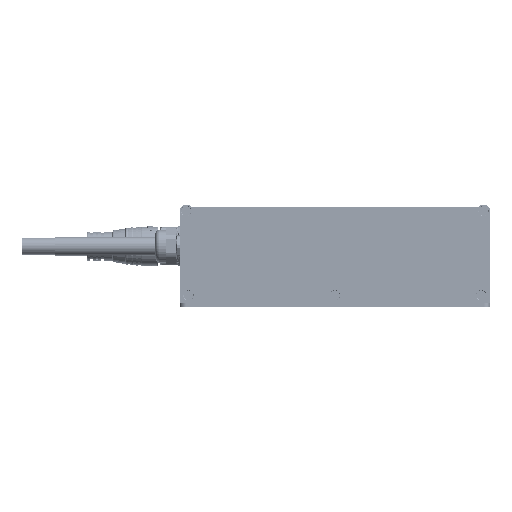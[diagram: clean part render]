
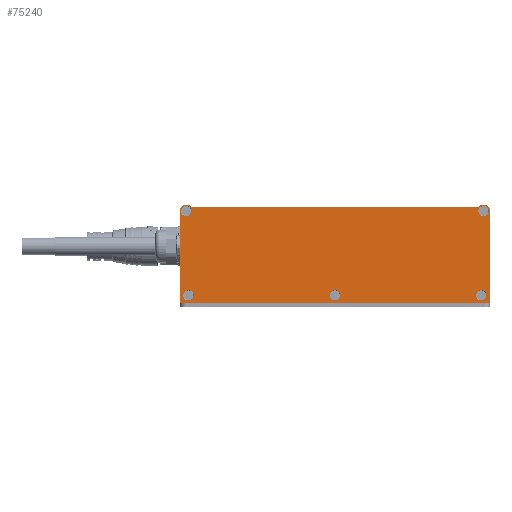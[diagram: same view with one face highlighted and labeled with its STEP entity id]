
A CAD part, top view. The second image highlights one B-rep face of the part: STEP entity #75240.
In plain terms, the highlighted planar face has unit normal (0, 0, 1).
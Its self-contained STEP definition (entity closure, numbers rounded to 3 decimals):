
#74513=CARTESIAN_POINT('',(-115.,34.5,3.));
#74514=DIRECTION('',(0.,0.,-1.));
#74515=DIRECTION('',(1.,0.,0.));
#74516=AXIS2_PLACEMENT_3D('',#74513,#74514,#74515);
#74518=CARTESIAN_POINT('',(-115.,34.5,3.));
#74519=DIRECTION('',(0.,0.,-1.));
#74520=DIRECTION('',(-1.,0.,0.));
#74521=AXIS2_PLACEMENT_3D('',#74518,#74519,#74520);
#74523=CARTESIAN_POINT('',(-113.232,-30.732,3.));
#74524=DIRECTION('',(0.,0.,-1.));
#74525=DIRECTION('',(1.,0.,0.));
#74526=AXIS2_PLACEMENT_3D('',#74523,#74524,#74525);
#74528=CARTESIAN_POINT('',(-113.232,-30.732,3.));
#74529=DIRECTION('',(0.,0.,-1.));
#74530=DIRECTION('',(-1.,0.,0.));
#74531=AXIS2_PLACEMENT_3D('',#74528,#74529,#74530);
#74533=CARTESIAN_POINT('',(113.232,-30.732,3.));
#74534=DIRECTION('',(0.,0.,-1.));
#74535=DIRECTION('',(1.,0.,0.));
#74536=AXIS2_PLACEMENT_3D('',#74533,#74534,#74535);
#74538=CARTESIAN_POINT('',(113.232,-30.732,3.));
#74539=DIRECTION('',(0.,0.,-1.));
#74540=DIRECTION('',(-1.,0.,0.));
#74541=AXIS2_PLACEMENT_3D('',#74538,#74539,#74540);
#74543=CARTESIAN_POINT('',(115.,34.5,3.));
#74544=DIRECTION('',(0.,0.,-1.));
#74545=DIRECTION('',(1.,0.,0.));
#74546=AXIS2_PLACEMENT_3D('',#74543,#74544,#74545);
#74548=CARTESIAN_POINT('',(115.,34.5,3.));
#74549=DIRECTION('',(0.,0.,-1.));
#74550=DIRECTION('',(-1.,0.,0.));
#74551=AXIS2_PLACEMENT_3D('',#74548,#74549,#74550);
#74553=CARTESIAN_POINT('',(0.,-30.732,3.));
#74554=DIRECTION('',(0.,0.,-1.));
#74555=DIRECTION('',(1.,0.,0.));
#74556=AXIS2_PLACEMENT_3D('',#74553,#74554,#74555);
#74558=CARTESIAN_POINT('',(0.,-30.732,3.));
#74559=DIRECTION('',(0.,0.,-1.));
#74560=DIRECTION('',(-1.,0.,0.));
#74561=AXIS2_PLACEMENT_3D('',#74558,#74559,#74560);
#74563=DIRECTION('',(0.707,-0.707,0.));
#74564=VECTOR('',#74563,0.45);
#74565=CARTESIAN_POINT('',(-111.464,38.036,3.));
#74566=LINE('',#74565,#74564);
#74567=CARTESIAN_POINT('',(-111.5,37.364,3.));
#74568=DIRECTION('',(0.,0.,1.));
#74569=DIRECTION('',(0.962,0.272,0.));
#74570=AXIS2_PLACEMENT_3D('',#74567,#74568,#74569);
#74572=DIRECTION('',(1.,0.,0.));
#74573=VECTOR('',#74572,222.038);
#74574=CARTESIAN_POINT('',(-111.019,37.5,3.));
#74575=LINE('',#74574,#74573);
#74576=CARTESIAN_POINT('',(111.5,37.364,3.));
#74577=DIRECTION('',(0.,0.,1.));
#74578=DIRECTION('',(-0.707,0.707,0.));
#74579=AXIS2_PLACEMENT_3D('',#74576,#74577,#74578);
#74581=DIRECTION('',(0.707,0.707,0.));
#74582=VECTOR('',#74581,0.45);
#74583=CARTESIAN_POINT('',(111.146,37.718,3.));
#74584=LINE('',#74583,#74582);
#74585=DIRECTION('',(0.,1.,0.));
#74586=VECTOR('',#74585,71.);
#74587=CARTESIAN_POINT('',(120.,-36.5,3.));
#74588=LINE('',#74587,#74586);
#74589=DIRECTION('',(1.,0.,0.));
#74590=VECTOR('',#74589,240.);
#74591=CARTESIAN_POINT('',(-120.,-36.5,3.));
#74592=LINE('',#74591,#74590);
#74593=DIRECTION('',(0.,-1.,0.));
#74594=VECTOR('',#74593,71.);
#74595=CARTESIAN_POINT('',(-120.,34.5,3.));
#74596=LINE('',#74595,#74594);
#74734=CARTESIAN_POINT('',(115.,34.5,3.));
#74735=DIRECTION('',(0.,0.,1.));
#74736=DIRECTION('',(1.,0.,0.));
#74737=AXIS2_PLACEMENT_3D('',#74734,#74735,#74736);
#74791=CARTESIAN_POINT('',(-115.,34.5,3.));
#74792=DIRECTION('',(0.,0.,1.));
#74793=DIRECTION('',(0.707,0.707,0.));
#74794=AXIS2_PLACEMENT_3D('',#74791,#74792,#74793);
#74944=CARTESIAN_POINT('',(-120.,-36.5,3.));
#74945=CARTESIAN_POINT('',(120.,-36.5,3.));
#74946=VERTEX_POINT('',#74944);
#74947=VERTEX_POINT('',#74945);
#75004=CARTESIAN_POINT('',(-120.,34.5,3.));
#75006=VERTEX_POINT('',#75004);
#75008=CARTESIAN_POINT('',(120.,34.5,3.));
#75010=VERTEX_POINT('',#75008);
#75028=CARTESIAN_POINT('',(-111.,34.5,3.));
#75029=CARTESIAN_POINT('',(-119.,34.5,3.));
#75030=VERTEX_POINT('',#75028);
#75031=VERTEX_POINT('',#75029);
#75036=CARTESIAN_POINT('',(-109.232,-30.732,3.));
#75037=CARTESIAN_POINT('',(-117.232,-30.732,3.));
#75038=VERTEX_POINT('',#75036);
#75039=VERTEX_POINT('',#75037);
#75044=CARTESIAN_POINT('',(117.232,-30.732,3.));
#75045=CARTESIAN_POINT('',(109.232,-30.732,3.));
#75046=VERTEX_POINT('',#75044);
#75047=VERTEX_POINT('',#75045);
#75052=CARTESIAN_POINT('',(119.,34.5,3.));
#75053=CARTESIAN_POINT('',(111.,34.5,3.));
#75054=VERTEX_POINT('',#75052);
#75055=VERTEX_POINT('',#75053);
#75064=CARTESIAN_POINT('',(4.,-30.732,3.));
#75065=CARTESIAN_POINT('',(-4.,-30.732,3.));
#75066=VERTEX_POINT('',#75064);
#75067=VERTEX_POINT('',#75065);
#75084=CARTESIAN_POINT('',(-111.464,38.036,3.));
#75085=CARTESIAN_POINT('',(-111.146,37.718,3.));
#75086=VERTEX_POINT('',#75084);
#75087=VERTEX_POINT('',#75085);
#75088=CARTESIAN_POINT('',(-111.019,37.5,3.));
#75089=VERTEX_POINT('',#75088);
#75090=CARTESIAN_POINT('',(111.019,37.5,3.));
#75091=VERTEX_POINT('',#75090);
#75092=CARTESIAN_POINT('',(111.146,37.718,3.));
#75093=VERTEX_POINT('',#75092);
#75094=CARTESIAN_POINT('',(111.464,38.036,3.));
#75095=VERTEX_POINT('',#75094);
#75184=CARTESIAN_POINT('',(0.,0.,3.));
#75185=DIRECTION('',(0.,0.,1.));
#75186=DIRECTION('',(1.,0.,0.));
#75187=AXIS2_PLACEMENT_3D('',#75184,#75185,#75186);
#75188=PLANE('',#75187);
#75190=ORIENTED_EDGE('',*,*,#75189,.T.);
#75192=ORIENTED_EDGE('',*,*,#75191,.F.);
#75194=ORIENTED_EDGE('',*,*,#75193,.T.);
#75196=ORIENTED_EDGE('',*,*,#75195,.F.);
#75198=ORIENTED_EDGE('',*,*,#75197,.T.);
#75200=ORIENTED_EDGE('',*,*,#75199,.F.);
#75202=ORIENTED_EDGE('',*,*,#75201,.F.);
#75204=ORIENTED_EDGE('',*,*,#75203,.F.);
#75206=ORIENTED_EDGE('',*,*,#75205,.F.);
#75208=ORIENTED_EDGE('',*,*,#75207,.F.);
#75209=EDGE_LOOP('',(#75190,#75192,#75194,#75196,#75198,#75200,#75202,#75204,
#75206,#75208));
#75210=FACE_OUTER_BOUND('',#75209,.F.);
#75212=ORIENTED_EDGE('',*,*,#75211,.F.);
#75214=ORIENTED_EDGE('',*,*,#75213,.F.);
#75215=EDGE_LOOP('',(#75212,#75214));
#75216=FACE_BOUND('',#75215,.F.);
#75218=ORIENTED_EDGE('',*,*,#75217,.F.);
#75220=ORIENTED_EDGE('',*,*,#75219,.F.);
#75221=EDGE_LOOP('',(#75218,#75220));
#75222=FACE_BOUND('',#75221,.F.);
#75224=ORIENTED_EDGE('',*,*,#75223,.F.);
#75226=ORIENTED_EDGE('',*,*,#75225,.F.);
#75227=EDGE_LOOP('',(#75224,#75226));
#75228=FACE_BOUND('',#75227,.F.);
#75230=ORIENTED_EDGE('',*,*,#75229,.F.);
#75232=ORIENTED_EDGE('',*,*,#75231,.F.);
#75233=EDGE_LOOP('',(#75230,#75232));
#75234=FACE_BOUND('',#75233,.F.);
#75236=ORIENTED_EDGE('',*,*,#75235,.F.);
#75237=ORIENTED_EDGE('',*,*,#75174,.F.);
#75238=EDGE_LOOP('',(#75236,#75237));
#75239=FACE_BOUND('',#75238,.F.);
#75240=ADVANCED_FACE('',(#75210,#75216,#75222,#75228,#75234,#75239),#75188,.T.);
#74517=CIRCLE('',#74516,4.);
#74522=CIRCLE('',#74521,4.);
#74527=CIRCLE('',#74526,4.);
#74532=CIRCLE('',#74531,4.);
#74537=CIRCLE('',#74536,4.);
#74542=CIRCLE('',#74541,4.);
#74547=CIRCLE('',#74546,4.);
#74552=CIRCLE('',#74551,4.);
#74557=CIRCLE('',#74556,4.);
#74562=CIRCLE('',#74561,4.);
#74571=CIRCLE('',#74570,0.5);
#74580=CIRCLE('',#74579,0.5);
#74738=CIRCLE('',#74737,5.);
#74795=CIRCLE('',#74794,5.);
#75174=EDGE_CURVE('',#75031,#75030,#74522,.T.);
#75189=EDGE_CURVE('',#75086,#75087,#74566,.T.);
#75191=EDGE_CURVE('',#75089,#75087,#74571,.T.);
#75193=EDGE_CURVE('',#75089,#75091,#74575,.T.);
#75195=EDGE_CURVE('',#75093,#75091,#74580,.T.);
#75197=EDGE_CURVE('',#75093,#75095,#74584,.T.);
#75199=EDGE_CURVE('',#75010,#75095,#74738,.T.);
#75201=EDGE_CURVE('',#74947,#75010,#74588,.T.);
#75203=EDGE_CURVE('',#74946,#74947,#74592,.T.);
#75205=EDGE_CURVE('',#75006,#74946,#74596,.T.);
#75207=EDGE_CURVE('',#75086,#75006,#74795,.T.);
#75211=EDGE_CURVE('',#75038,#75039,#74527,.T.);
#75213=EDGE_CURVE('',#75039,#75038,#74532,.T.);
#75217=EDGE_CURVE('',#75046,#75047,#74537,.T.);
#75219=EDGE_CURVE('',#75047,#75046,#74542,.T.);
#75223=EDGE_CURVE('',#75054,#75055,#74547,.T.);
#75225=EDGE_CURVE('',#75055,#75054,#74552,.T.);
#75229=EDGE_CURVE('',#75066,#75067,#74557,.T.);
#75231=EDGE_CURVE('',#75067,#75066,#74562,.T.);
#75235=EDGE_CURVE('',#75030,#75031,#74517,.T.);
